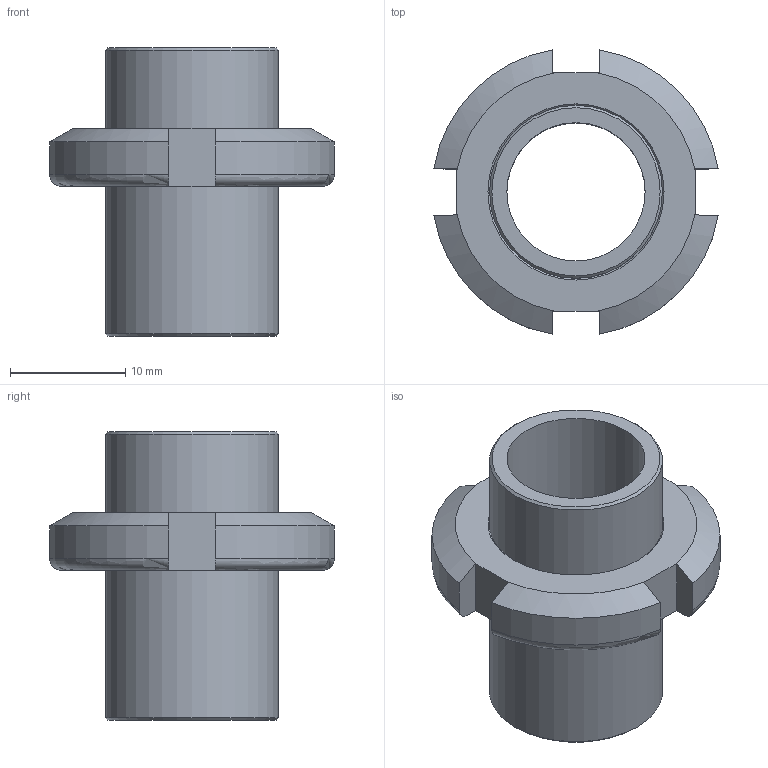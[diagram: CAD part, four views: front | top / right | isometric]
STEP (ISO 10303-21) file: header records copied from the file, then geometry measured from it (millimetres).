
FILE_DESCRIPTION(/* description */ ('LAMIERA Ø15 Sp.25'),/* implementation_level */ '2;1');
FILE_NAME(/* name */ 'C:\Local Work Area\Progetti\AP\CALIBRI\03 Portacomparatore\03.60-A.stp',/* time_stamp */ '2015-04-01T10:52:35+02:00',/* author */ ('CAD5'),/* organization */ (''),/* preprocessor_version */ 'ST-DEVELOPER v15.2',/* originating_system */ 'Autodesk Inventor 2014',/* authorisation */ '');
FILE_SCHEMA (('AUTOMOTIVE_DESIGN { 1 0 10303 214 3 1 1 }'));
Length unit declared in the file: millimetre
Products named in the file (3): 03.65; Ghiera SKF M15x1 KM_2; 03.60-A
Bounding box: 24.68 x 24.68 x 25 mm (x, y, z)
Volume: 2909.4 mm3; surface area: 3404.6 mm2
Topology: 2 solids, 2 shells, 35 faces, 90 edges, 59 vertices
Faces by surface type: plane 16, cone 8, cylinder 7, torus 4
Full cylindrical faces by diameter (mm): 12 x1, 15 x2
Entity records: 1142 total; most frequent: CARTESIAN_POINT 284, ORIENTED_EDGE 164, DIRECTION 164, EDGE_CURVE 82, AXIS2_PLACEMENT_3D 66, VERTEX_POINT 58, EDGE_LOOP 46, ADVANCED_FACE 35
